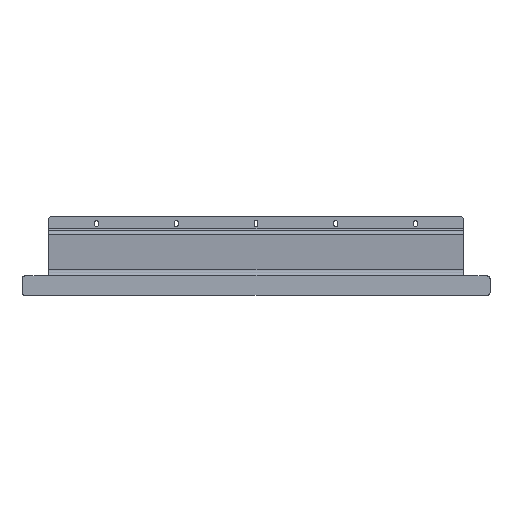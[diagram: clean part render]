
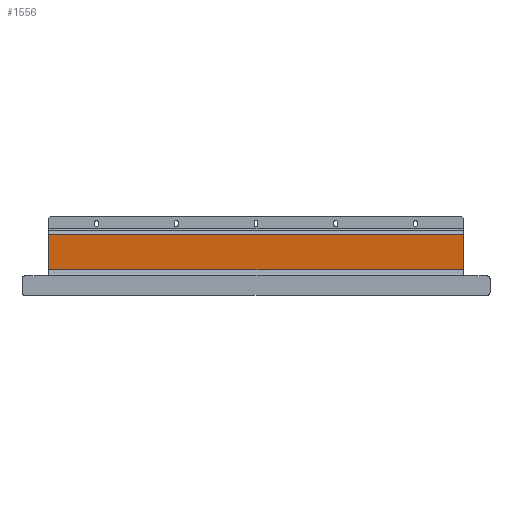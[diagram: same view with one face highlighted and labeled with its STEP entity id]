
A CAD part, top view. The second image highlights one B-rep face of the part: STEP entity #1556.
In plain terms, the highlighted planar face has unit normal (0, -0.087, 0.996).
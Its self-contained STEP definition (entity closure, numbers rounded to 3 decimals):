
#78=PLANE('',#1720);
#162=FACE_OUTER_BOUND('',#263,.T.);
#263=EDGE_LOOP('',(#1381,#1382,#1383,#1384));
#407=LINE('',#2576,#559);
#410=LINE('',#2583,#562);
#413=LINE('',#2590,#565);
#415=LINE('',#2597,#567);
#559=VECTOR('',#2119,10.);
#562=VECTOR('',#2126,10.);
#565=VECTOR('',#2133,10.);
#567=VECTOR('',#2141,5.285);
#772=VERTEX_POINT('',#2568);
#773=VERTEX_POINT('',#2572);
#775=VERTEX_POINT('',#2581);
#777=VERTEX_POINT('',#2589);
#975=EDGE_CURVE('',#772,#773,#407,.T.);
#978=EDGE_CURVE('',#773,#775,#410,.T.);
#981=EDGE_CURVE('',#775,#777,#413,.T.);
#985=EDGE_CURVE('',#777,#772,#415,.T.);
#1381=ORIENTED_EDGE('',*,*,#975,.T.);
#1382=ORIENTED_EDGE('',*,*,#978,.T.);
#1383=ORIENTED_EDGE('',*,*,#981,.T.);
#1384=ORIENTED_EDGE('',*,*,#985,.T.);
#1556=ADVANCED_FACE('',(#162),#78,.T.);
#1720=AXIS2_PLACEMENT_3D('',#2609,#2156,#2157);
#2119=DIRECTION('',(1.,0.,0.));
#2126=DIRECTION('',(0.,0.996,0.087));
#2133=DIRECTION('',(-1.,0.,0.));
#2141=DIRECTION('',(0.,-0.996,-0.087));
#2156=DIRECTION('center_axis',(0.,-0.087,0.996));
#2157=DIRECTION('ref_axis',(0.,-0.996,-0.087));
#2568=CARTESIAN_POINT('',(0.,-70.243,31.203));
#2572=CARTESIAN_POINT('',(780.,-70.243,31.203));
#2576=CARTESIAN_POINT('',(195.,-70.243,31.203));
#2581=CARTESIAN_POINT('',(780.,-4.31,36.972));
#2583=CARTESIAN_POINT('',(780.,-4.31,36.972));
#2589=CARTESIAN_POINT('',(0.,-4.31,36.972));
#2590=CARTESIAN_POINT('',(390.,-4.31,36.972));
#2597=CARTESIAN_POINT('',(0.,12.23,38.419));
#2609=CARTESIAN_POINT('Origin',(390.,-36.901,34.12));
